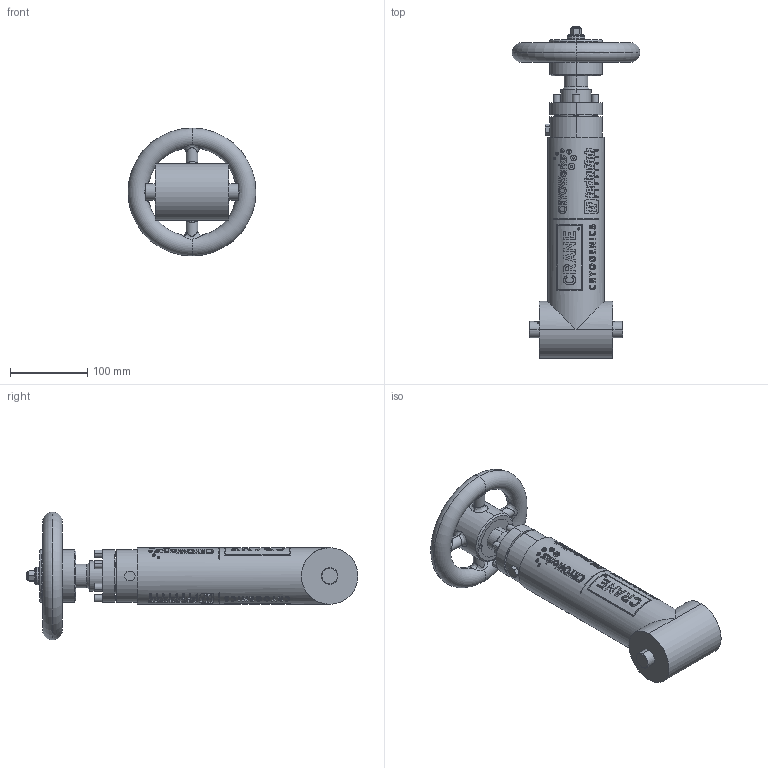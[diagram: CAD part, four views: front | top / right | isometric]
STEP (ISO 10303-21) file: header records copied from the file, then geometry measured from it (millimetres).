
FILE_DESCRIPTION (( 'STEP AP203' ), '1' );
FILE_NAME ('0.5IN T-PATTERN MANUAL CRANE BELLOWS SEAL VALVE.step', '2025-12-17T20:04:14', ( '' ), ( '' ), 'SwSTEP 2.0', 'SolidWorks 2023', '' );
FILE_SCHEMA (( 'CONFIG_CONTROL_DESIGN' ));
Length unit declared in the file: inch
Products named in the file (1): 0.5IN T-PATTERN MANUAL CRANE BELLOWS SEAL VALVE
Bounding box: 165.1 x 428.44 x 165.1 mm (x, y, z)
Volume: 1919501.7 mm3; surface area: 171312.9 mm2
Topology: 1 solids, 1 shells, 1495 faces, 3877 edges, 2578 vertices
Faces by surface type: plane 830, cylinder 404, bspline 223, cone 28, torus 10
Full cylindrical faces by diameter (mm): 1.195 x2, 1.309 x2, 1.422 x2, 1.631 x2, 1.842 x2, 2.373 x2, 2.456 x2, 2.727 x2, 2.906 x2, 3.046 x2, 3.207 x2, 3.658 x2, 4.941 x2, 6.104 x2, 7.386 x2, 8.599 x2, 73.025 x1
Entity records: 95038 total; most frequent: CARTESIAN_POINT 62056, ORIENTED_EDGE 7638, DIRECTION 5505, EDGE_CURVE 3819, VERTEX_POINT 2572, VECTOR 1871, LINE 1871, AXIS2_PLACEMENT_3D 1817
